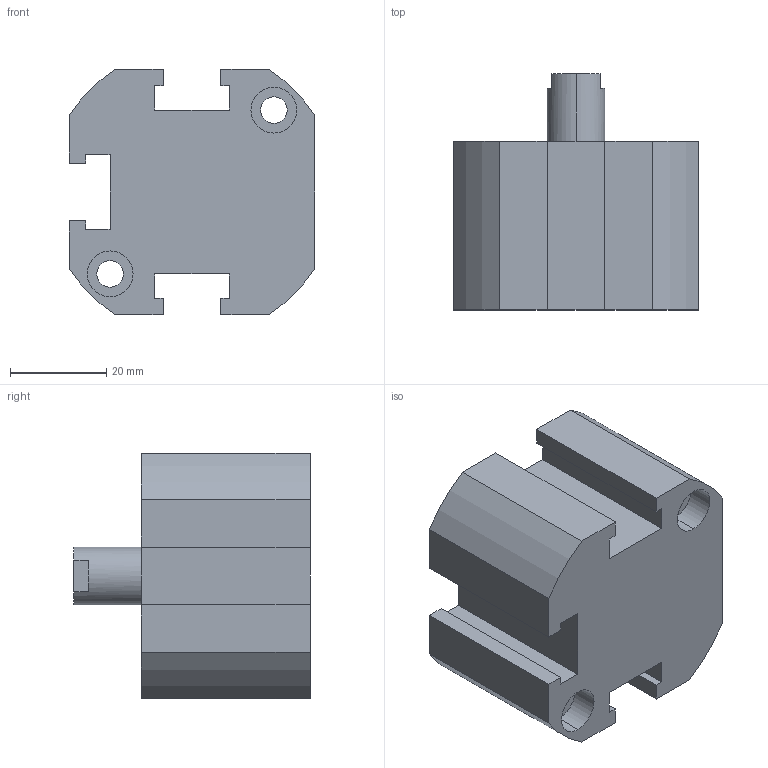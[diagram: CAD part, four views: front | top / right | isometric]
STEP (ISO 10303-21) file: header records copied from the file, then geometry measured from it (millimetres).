
FILE_DESCRIPTION (( 'STEP AP203' ), '1' );
FILE_NAME ('XC#0-32-10.STEP', '2016-05-23T06:58:05', ( '' ), ( '' ), 'SwSTEP 2.0', 'SolidWorks 2014', '' );
FILE_SCHEMA (( 'CONFIG_CONTROL_DESIGN' ));
Length unit declared in the file: millimetre
Products named in the file (1): XC#0-32-10
Bounding box: 51 x 49 x 51 mm (x, y, z)
Volume: 70121.7 mm3; surface area: 15813.5 mm2
Topology: 1 solids, 1 shells, 91 faces, 231 edges, 150 vertices
Faces by surface type: plane 45, cylinder 40, cone 6
Entity records: 2822 total; most frequent: DIRECTION 499, CARTESIAN_POINT 469, ORIENTED_EDGE 454, EDGE_CURVE 227, AXIS2_PLACEMENT_3D 180, VERTEX_POINT 150, VECTOR 139, LINE 139
